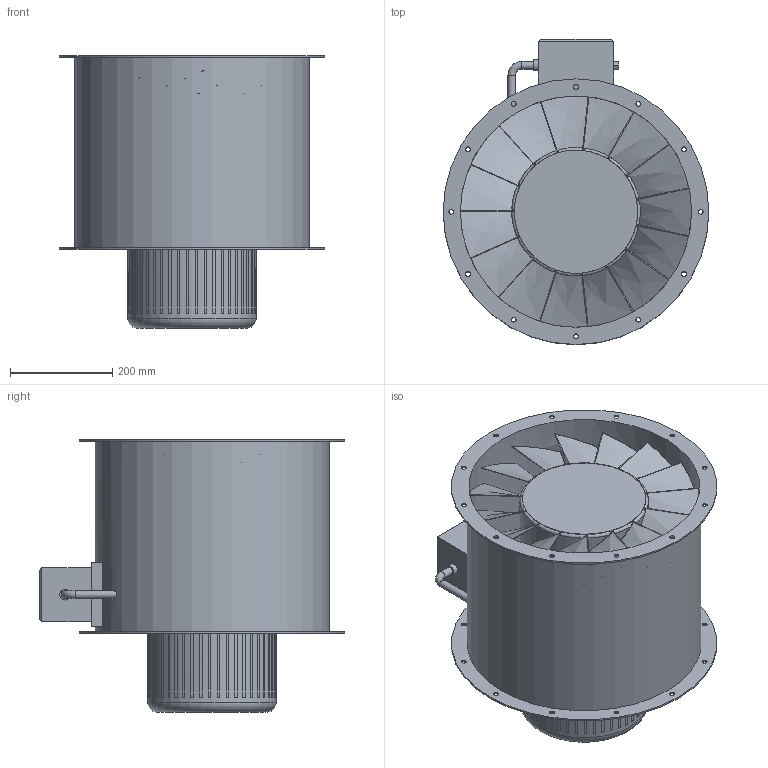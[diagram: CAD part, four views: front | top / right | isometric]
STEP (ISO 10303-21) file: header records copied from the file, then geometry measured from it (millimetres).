
FILE_DESCRIPTION(/* description */ (''),/* implementation_level */ '2;1');
FILE_NAME(/* name */ 'Z:\Output\AMD_450-4-2_1.1-4.4-03113-030.stp',/* time_stamp */ '2021-12-10T17:05:35+01:00',/* author */ ('engineering1'),/* organization */ (''),/* preprocessor_version */ 'ST-DEVELOPER v17.2',/* originating_system */ 'Autodesk Inventor 2019',/* authorisation */ '');
FILE_SCHEMA (('AUTOMOTIVE_DESIGN { 1 0 10303 214 3 1 1 }'));
Length unit declared in the file: millimetre
Products named in the file (1): AMD W
Bounding box: 519 x 597 x 533 mm (x, y, z)
Volume: 27906106.1 mm3; surface area: 2600895.4 mm2
Topology: 1 solids, 43 shells, 443 faces, 1046 edges, 661 vertices
Faces by surface type: plane 239, cylinder 142, bspline 45, torus 17
Full cylindrical faces by diameter (mm): 9.5 x24, 15 x3, 21 x1, 251.111 x1, 452 x1, 458 x1, 519 x2
Entity records: 14017 total; most frequent: CARTESIAN_POINT 3965, ORIENTED_EDGE 2092, DIRECTION 1929, EDGE_CURVE 1046, AXIS2_PLACEMENT_3D 698, VERTEX_POINT 661, LINE 533, VECTOR 533
